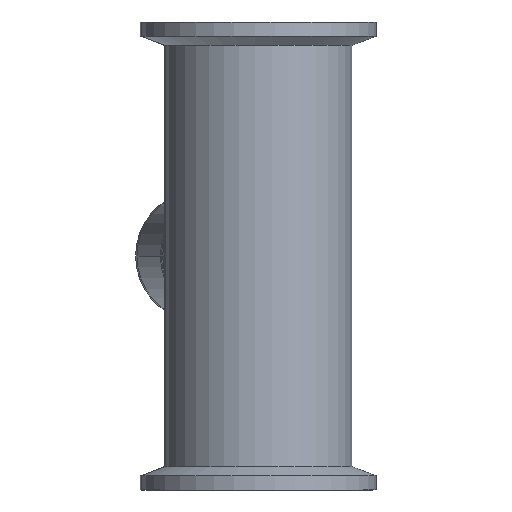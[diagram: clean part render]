
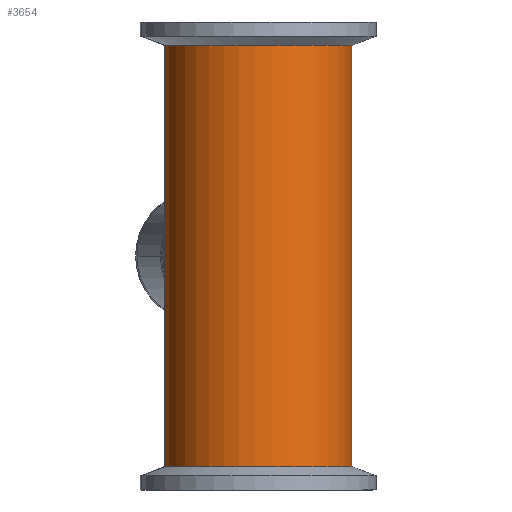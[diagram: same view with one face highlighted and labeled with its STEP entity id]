
A CAD part, front view. The second image highlights one B-rep face of the part: STEP entity #3654.
In plain terms, the highlighted cylindrical face has radius 20 mm (diameter 40 mm), a partial arc.
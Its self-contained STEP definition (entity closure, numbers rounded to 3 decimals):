
#102 = AXIS2_PLACEMENT_3D ( 'NONE', #1871, #8235, #4380 ) ;
#686 = CIRCLE ( 'NONE', #102, 20. ) ;
#797 = CARTESIAN_POINT ( 'NONE',  ( 0., 0., 45. ) ) ;
#1472 = CARTESIAN_POINT ( 'NONE',  ( 20., 0., 45. ) ) ;
#1701 = EDGE_CURVE ( 'NONE', #3200, #4066, #686, .T. ) ;
#1844 = FACE_OUTER_BOUND ( 'NONE', #9291, .T. ) ;
#1871 = CARTESIAN_POINT ( 'NONE',  ( 0., 0., -45. ) ) ;
#2304 = CARTESIAN_POINT ( 'NONE',  ( -20., 0., 45. ) ) ;
#2576 = ORIENTED_EDGE ( 'NONE', *, *, #11375, .F. ) ;
#2767 = VERTEX_POINT ( 'NONE', #2304 ) ;
#2825 = VERTEX_POINT ( 'NONE', #1472 ) ;
#3132 = CARTESIAN_POINT ( 'NONE',  ( 20., 0., -45. ) ) ;
#3200 = VERTEX_POINT ( 'NONE', #3132 ) ;
#3233 = ORIENTED_EDGE ( 'NONE', *, *, #8940, .T. ) ;
#3514 = ORIENTED_EDGE ( 'NONE', *, *, #1701, .F. ) ;
#3654 = ADVANCED_FACE ( 'NONE', ( #1844 ), #5288, .T. ) ;
#4066 = VERTEX_POINT ( 'NONE', #6768 ) ;
#4093 = CARTESIAN_POINT ( 'NONE',  ( -20., 0., 50. ) ) ;
#4380 = DIRECTION ( 'NONE',  ( -1., 0., 0. ) ) ;
#5288 = CYLINDRICAL_SURFACE ( 'NONE', #9413, 20. ) ;
#5300 = DIRECTION ( 'NONE',  ( 0., 0., -1. ) ) ;
#5347 = VECTOR ( 'NONE', #9440, 1000. ) ;
#5889 = AXIS2_PLACEMENT_3D ( 'NONE', #797, #5300, #11666 ) ;
#6768 = CARTESIAN_POINT ( 'NONE',  ( -20., 0., -45. ) ) ;
#7759 = LINE ( 'NONE', #4093, #5347 ) ;
#7992 = VECTOR ( 'NONE', #11409, 1000. ) ;
#8062 = EDGE_CURVE ( 'NONE', #2825, #2767, #9508, .T. ) ;
#8235 = DIRECTION ( 'NONE',  ( 0., 0., -1. ) ) ;
#8940 = EDGE_CURVE ( 'NONE', #2767, #4066, #7759, .T. ) ;
#9291 = EDGE_LOOP ( 'NONE', ( #2576, #11499, #3233, #3514 ) ) ;
#9413 = AXIS2_PLACEMENT_3D ( 'NONE', #9985, #11593, #9814 ) ;
#9440 = DIRECTION ( 'NONE',  ( 0., 0., -1. ) ) ;
#9508 = CIRCLE ( 'NONE', #5889, 20. ) ;
#9814 = DIRECTION ( 'NONE',  ( -1., 0., 0. ) ) ;
#9985 = CARTESIAN_POINT ( 'NONE',  ( 0., 0., 50. ) ) ;
#10514 = LINE ( 'NONE', #10574, #7992 ) ;
#10574 = CARTESIAN_POINT ( 'NONE',  ( 20., 0., 50. ) ) ;
#11375 = EDGE_CURVE ( 'NONE', #2825, #3200, #10514, .T. ) ;
#11409 = DIRECTION ( 'NONE',  ( 0., 0., -1. ) ) ;
#11499 = ORIENTED_EDGE ( 'NONE', *, *, #8062, .T. ) ;
#11593 = DIRECTION ( 'NONE',  ( 0., 0., -1. ) ) ;
#11666 = DIRECTION ( 'NONE',  ( -1., 0., 0. ) ) ;
